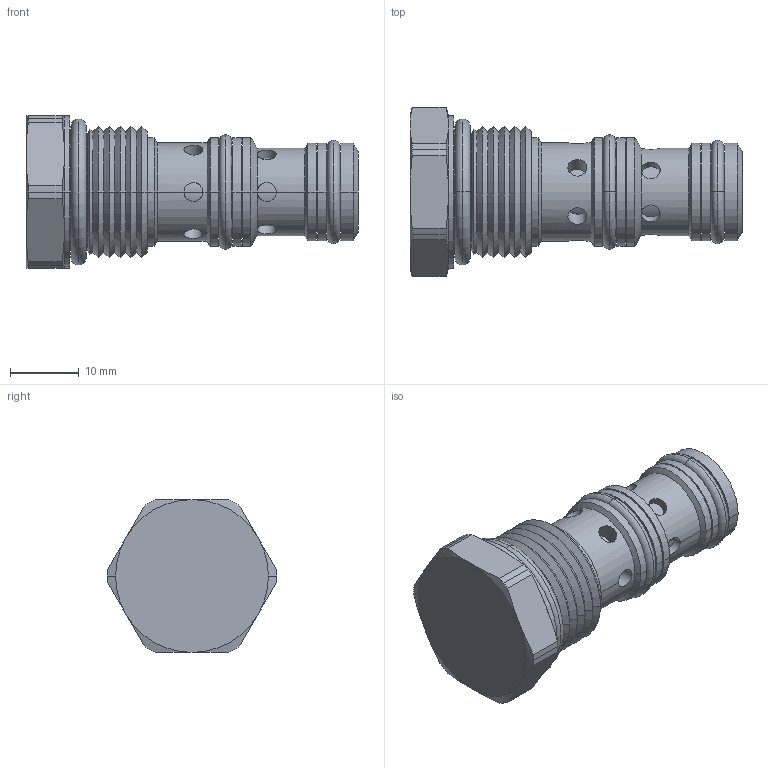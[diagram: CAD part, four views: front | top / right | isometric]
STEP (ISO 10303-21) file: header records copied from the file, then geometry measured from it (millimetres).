
FILE_DESCRIPTION((''),'2;1');
FILE_NAME('U:\Solid model CD\Solid model full\Mechanical\STEP\PPCPB00-3D Full.stp','2008-07-29T09:55:22',('Dan'),(''),'Autodesk Inventor 9','Autodesk Inventor 9','');
FILE_SCHEMA(('AUTOMOTIVE_DESIGN { 1 0 10303 214 1 1 1 1 }'));
Length unit declared in the file: inch
Products named in the file (8): PPCPB00-3D Full; PPCPB00-3D Full1; PPCPB00-3D Full2; PPCPB00-3D Full3; PPCPB00-3D Full4; PPCPB00-3D Full5; PPCPB00-3D Full6; PPCPB00-3D Full7
Assembly tree (7 placements, depth 2):
  PPCPB00-3D Full
    PPCPB00-3D Full1
    PPCPB00-3D Full2
    PPCPB00-3D Full3
    PPCPB00-3D Full4
    PPCPB00-3D Full5
    PPCPB00-3D Full6
    PPCPB00-3D Full7
Bounding box: 48.28 x 24.64 x 22.23 mm (x, y, z)
Volume: 10410.1 mm3; surface area: 5528.6 mm2
Topology: 7 solids, 7 shells, 190 faces, 442 edges, 274 vertices
Faces by surface type: cylinder 90, cone 52, plane 20, torus 18, bspline 10
Entity records: 6739 total; most frequent: CARTESIAN_POINT 2255, DIRECTION 942, ORIENTED_EDGE 884, EDGE_CURVE 442, AXIS2_PLACEMENT_3D 407, VERTEX_POINT 274, CIRCLE 212, EDGE_LOOP 210
